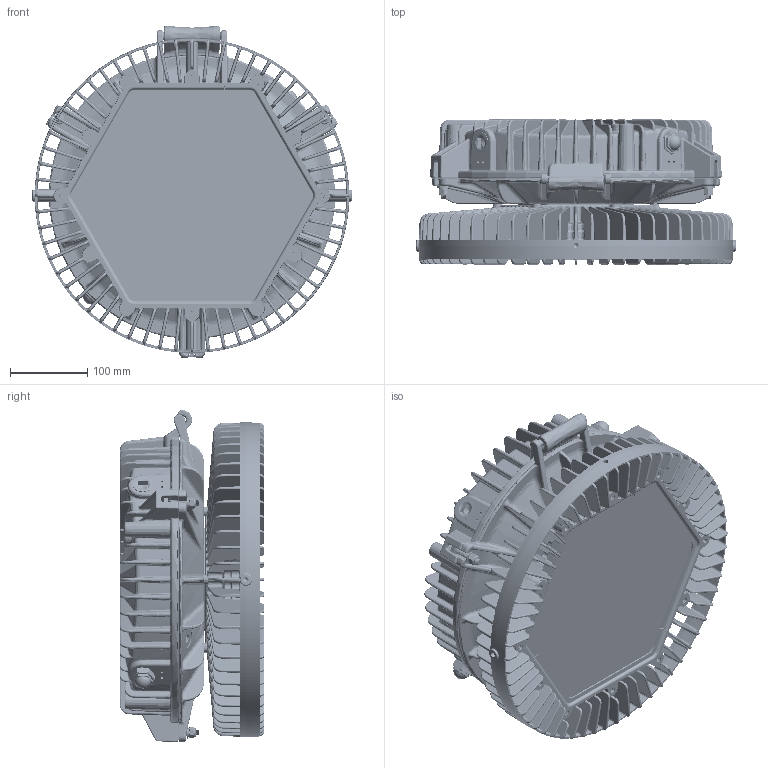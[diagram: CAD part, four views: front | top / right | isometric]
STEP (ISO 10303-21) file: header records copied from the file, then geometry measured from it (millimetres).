
FILE_DESCRIPTION((''),'2;1');
FILE_NAME('EHBBX_ASM','2023-10-23T11:28:46',('NSharma'),(''),'CREO PARAMETRIC BY PTC INC, 2021304','CREO PARAMETRIC BY PTC INC, 2021304','');
FILE_SCHEMA(('CONFIG_CONTROL_DESIGN'));
Products named in the file (21): 3998EHB000105; 3098HIB000807_AF0; 8800EHB300100_ASM; 8800EHB300200_ASM; 4700HIB001500; 3998HIB000807; 3867T67_HIGH-PRESSURE_ALUMINUM__AF0; 3900657000207_AF0; 8800657140200_AF0; 8800657140X00; 880065714XX00_AF0_ASM; 3900HIB002300; EPSS211C_INDICATOR_PLUG_ASM; 6200860000103; 93635A336_316_STAINLESS_STEEL_H; 8300HZA000100; 8100HZA000300; 4900HZA000100; 4700HIB0012EX; 2600HIB002200; EHBBX_ASM
Assembly tree (32 placements, depth 4):
  EHBBX_ASM
    3998EHB000105
    8800EHB300100_ASM
      3098HIB000807_AF0
    8800EHB300200_ASM
    4700HIB001500
    3998HIB000807
    EPSS211C_INDICATOR_PLUG_ASM  x2
      3867T67_HIGH-PRESSURE_ALUMINUM__AF0
      3900657000207_AF0
      880065714XX00_AF0_ASM
        8800657140200_AF0
        8800657140X00
      3900HIB002300
    6200860000103  x2
    93635A336_316_STAINLESS_STEEL_H  x3
    8300HZA000100  x3
    8100HZA000300  x3
    4900HZA000100  x3
    4700HIB0012EX
    2600HIB002200  x3
Bounding box: 412.75 x 186.89 x 428.81 mm (x, y, z)
Volume: 4508893.3 mm3; surface area: 2083880 mm2
Topology: 35 solids, 81 shells, 20879 faces, 53132 edges, 32686 vertices
Faces by surface type: plane 8373, bspline 5581, cylinder 3748, extrusion 1186, cone 1131, torus 663, sphere 197
Entity records: 798416 total; most frequent: CARTESIAN_POINT 453690, ORIENTED_EDGE 81417, DIRECTION 56982, EDGE_CURVE 40795, VERTEX_POINT 24644, AXIS2_PLACEMENT_3D 19443, VECTOR 18096, LINE 17491
